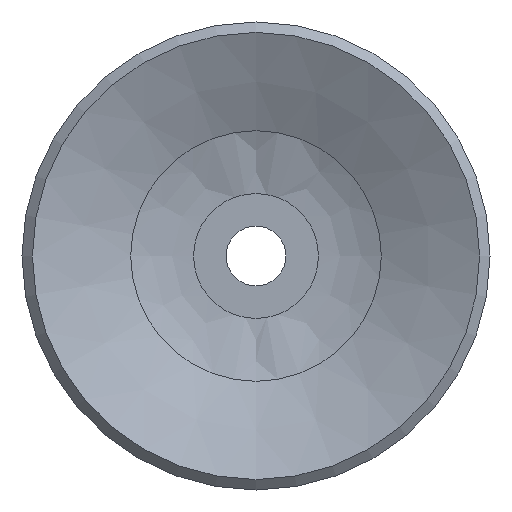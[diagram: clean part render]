
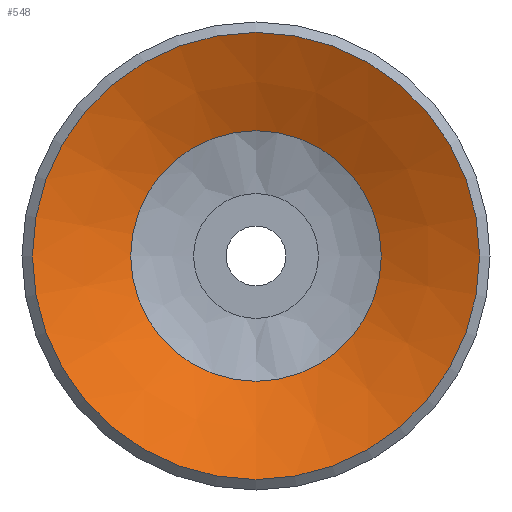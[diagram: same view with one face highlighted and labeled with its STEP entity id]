
A CAD part, front view. The second image highlights one B-rep face of the part: STEP entity #548.
In plain terms, the highlighted conical face has half-angle 65.056 degrees and reference radius 3.2 mm.
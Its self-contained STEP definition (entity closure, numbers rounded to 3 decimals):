
#548=ADVANCED_FACE('',(#834,#835),#836,.F.);
#834=FACE_BOUND('',#1207,.T.);
#835=FACE_OUTER_BOUND('',#1208,.T.);
#836=CONICAL_SURFACE('',#1209,3.2,1.135);
#1207=EDGE_LOOP('',(#2220));
#1208=EDGE_LOOP('',(#2221));
#1209=AXIS2_PLACEMENT_3D('',#2222,#2223,#2224);
#2220=ORIENTED_EDGE('',*,*,#2735,.T.);
#2221=ORIENTED_EDGE('',*,*,#2728,.T.);
#2222=CARTESIAN_POINT('',(0.0,7.896,0.0));
#2223=DIRECTION('',(-0.0,-1.0,0.));
#2224=DIRECTION('',(0.0,0.,-1.0));
#2728=EDGE_CURVE('',#3106,#3106,#3107,.T.);
#2735=EDGE_CURVE('',#3120,#3120,#3121,.T.);
#3106=VERTEX_POINT('',#3900);
#3107=CIRCLE('',#3901,7.5);
#3120=VERTEX_POINT('',#3914);
#3121=CIRCLE('',#3915,4.203);
#3900=CARTESIAN_POINT('',(0.0,5.896,-7.5));
#3901=AXIS2_PLACEMENT_3D('',#4625,#4626,#4627);
#3914=CARTESIAN_POINT('',(0.0,7.43,-4.203));
#3915=AXIS2_PLACEMENT_3D('',#4646,#4647,#4648);
#4625=CARTESIAN_POINT('',(0.0,5.896,0.0));
#4626=DIRECTION('',(0.0,-1.0,0.));
#4627=DIRECTION('',(0.0,0.,-1.0));
#4646=CARTESIAN_POINT('',(0.0,7.43,0.0));
#4647=DIRECTION('',(0.0,1.0,0.));
#4648=DIRECTION('',(0.0,0.,-1.0));
